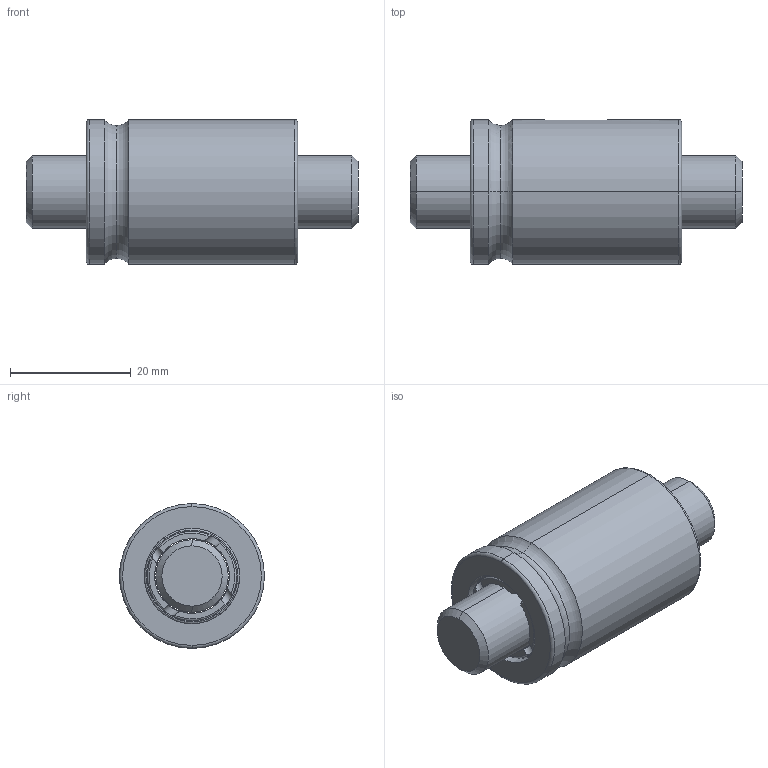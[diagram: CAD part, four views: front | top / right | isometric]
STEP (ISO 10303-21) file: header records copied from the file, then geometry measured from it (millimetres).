
FILE_DESCRIPTION (( 'STEP AP203' ), '1' );
FILE_NAME ('SCIR01204T3-C.STEP', '2020-06-17T07:14:24', ( '' ), ( '' ), 'SwSTEP 2.0', 'SolidWorks 2013', '' );
FILE_SCHEMA (( 'CONFIG_CONTROL_DESIGN' ));
Length unit declared in the file: millimetre
Products named in the file (1): SCIR01204T3-C
Bounding box: 55 x 24 x 24 mm (x, y, z)
Volume: 16853.3 mm3; surface area: 7494.3 mm2
Topology: 2 solids, 3 shells, 98 faces, 245 edges, 153 vertices
Faces by surface type: cylinder 45, torus 28, plane 21, cone 4
Entity records: 3540 total; most frequent: CARTESIAN_POINT 1128, DIRECTION 505, ORIENTED_EDGE 490, EDGE_CURVE 245, AXIS2_PLACEMENT_3D 224, VERTEX_POINT 153, CIRCLE 125, EDGE_LOOP 106
